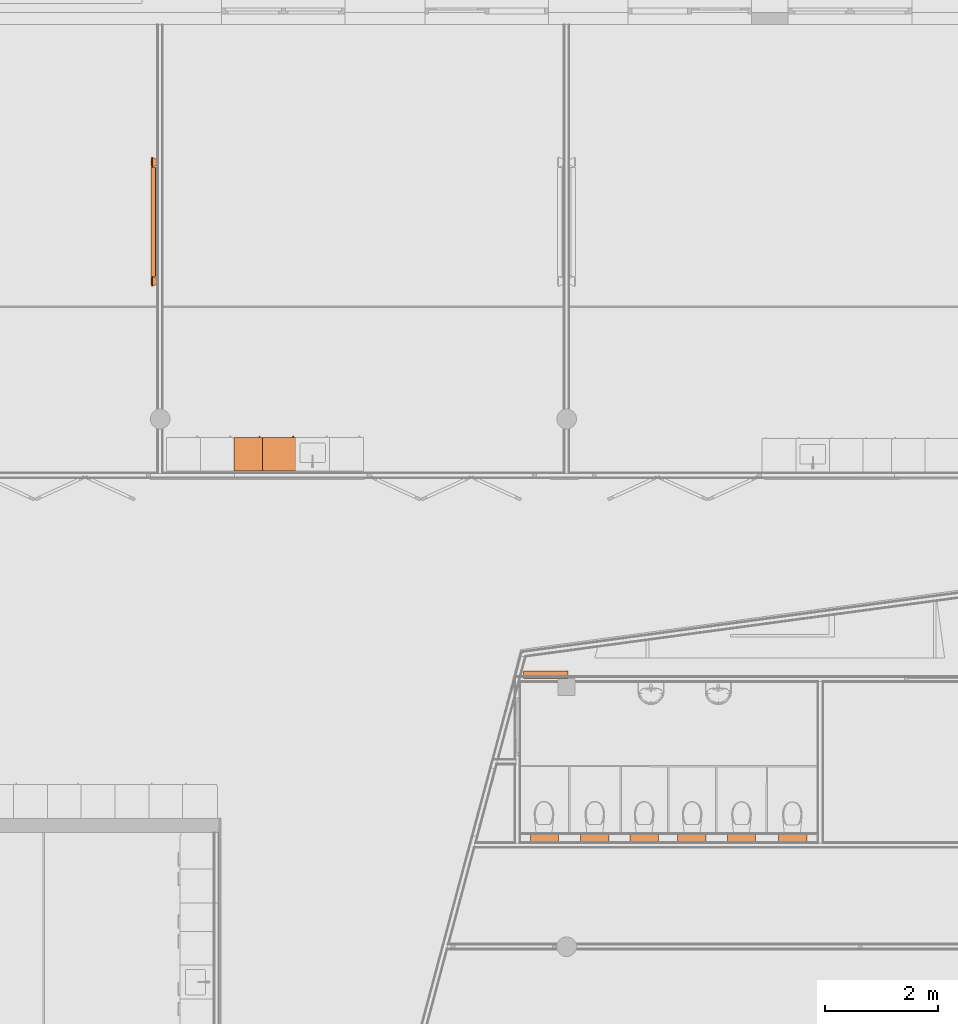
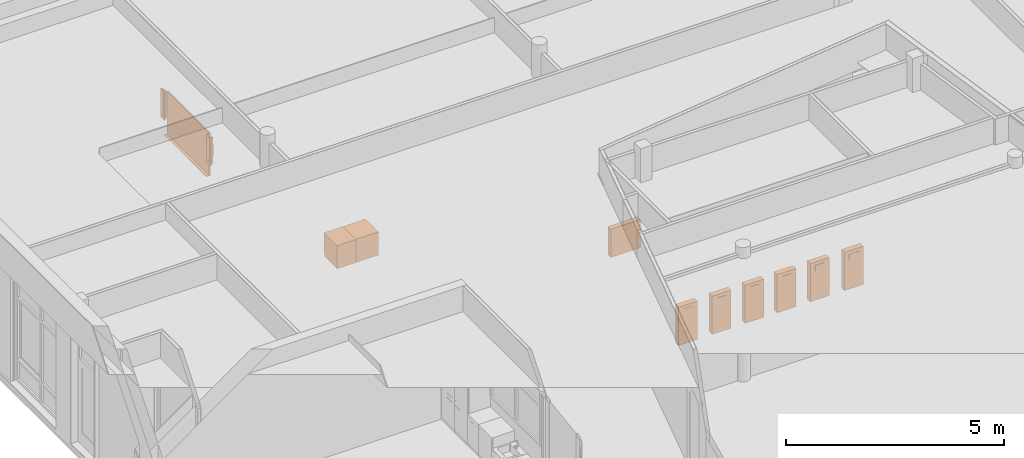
# One storey, part 103 of 167: 10 proxies.
"""IFC2X3 building model written with IfcOpenShell, lengths in millimetres."""

import ifcopenshell
import ifcopenshell.guid

model = None  # the IFC model being written
_history = None  # IfcOwnerHistory: only IFC2X3 demands one
_inside = {}  # id of a spatial element -> (the spatial element, [elements in it])
_under = {}  # id of a project, library or spatial element -> (it, [spatial elements below it])
_declared = {}  # id of a project -> (the project, [libraries it declares])
_typed = {}  # id of a type object -> (the type object, [elements of that type])
_made_of = {}  # id of a material, layer set ... -> (it, [elements and type objects made of it])


def new_model(schema):
    """Start an empty IFC model of exactly this schema.

    Asked for "IFC4X3", IfcOpenShell would pick the latest addendum, in which some entities
    have other attributes; the version numbers below select the first issue.
    IFC2X3 requires an IfcOwnerHistory on every rooted entity: one is made here for all.
    """
    global model, _history
    if schema == "IFC4X3":
        model = ifcopenshell.file(schema_version=(4, 3, 0, 0))
    else:
        model = ifcopenshell.file(schema=schema)
    _inside.clear()
    _under.clear()
    _declared.clear()
    _typed.clear()
    _made_of.clear()
    _history = None
    if model.schema == "IFC2X3":
        org = make("IfcOrganization", Name="unknown")
        user = make(
            "IfcPersonAndOrganization",
            ThePerson=make("IfcPerson", FamilyName="unknown"),
            TheOrganization=org,
        )
        app = make(
            "IfcApplication",
            ApplicationDeveloper=org,
            Version="unknown",
            ApplicationFullName="unknown",
            ApplicationIdentifier="unknown",
        )
        _history = make(
            "IfcOwnerHistory",
            OwningUser=user,
            OwningApplication=app,
            ChangeAction="ADDED",
            CreationDate=0,
        )
    return model


def make(cls, **values):
    """One entity of the class cls with the attributes given. An attribute that is None is left unset."""
    return model.create_entity(
        cls, **{name: value for name, value in values.items() if value is not None}
    )


def entity(cls, *values):
    """Any entity or typed value of the class cls, its attributes in the order of the schema. None: left unset."""
    e = model.create_entity(cls)
    for i, value in enumerate(values):
        if value is not None:
            e[i] = value
    return e


def rooted(cls, **values):
    """An entity with a GlobalId (a new one), such as an element, a storey or a relation."""
    return make(cls, GlobalId=ifcopenshell.guid.new(), OwnerHistory=_history, **values)


def si_unit(unit_type, name, prefix=None):
    """IfcSIUnit, for example si_unit("LENGTHUNIT", "METRE", prefix="MILLI")."""
    return make("IfcSIUnit", UnitType=unit_type, Prefix=prefix, Name=name)


def converted_unit(unit_type, name, factor, base, dimensions=None, offset=None):
    """IfcConversionBasedUnit, such as the inch: factor (a typed value) times the base unit."""
    return make(
        "IfcConversionBasedUnit"
        if offset is None
        else "IfcConversionBasedUnitWithOffset",
        ConversionOffset=offset,
        Dimensions=None
        if dimensions is None
        else entity("IfcDimensionalExponents", *dimensions),
        UnitType=unit_type,
        Name=name,
        ConversionFactor=make(
            "IfcMeasureWithUnit", ValueComponent=factor, UnitComponent=base
        ),
    )


def derived_unit(unit_type, elements):
    """IfcDerivedUnit: a product of units, each with its exponent."""
    return make(
        "IfcDerivedUnit",
        Elements=[
            make("IfcDerivedUnitElement", Unit=unit, Exponent=power)
            for unit, power in elements
        ],
        UnitType=unit_type,
    )


def money_unit(currency):
    """IfcMonetaryUnit."""
    return make("IfcMonetaryUnit", Currency=currency)


def assignment(units):
    """IfcUnitAssignment: the units of a project."""
    return None if units is None else make("IfcUnitAssignment", Units=units)


def point(xyz):
    """IfcCartesianPoint."""
    return None if xyz is None else make("IfcCartesianPoint", Coordinates=xyz)


def direction(xyz):
    """IfcDirection."""
    return None if xyz is None else make("IfcDirection", DirectionRatios=xyz)


def frame(location, z_axis=None, x_axis=None):
    """IfcAxis2Placement3D, a coordinate frame: its origin and axes. An axis left out is left unset."""
    return make(
        "IfcAxis2Placement3D",
        Location=point(location),
        Axis=direction(z_axis),
        RefDirection=direction(x_axis),
    )


def origin_with_axes():
    """The frame at (0, 0, 0) with the z axis (0, 0, 1) and the x axis (1, 0, 0) written out."""
    return frame((0.0, 0.0, 0.0), z_axis=(0.0, 0.0, 1.0), x_axis=(1.0, 0.0, 0.0))


def place(relative_to, where):
    """IfcLocalPlacement: puts the frame where relative to a parent placement (None: the world)."""
    return make(
        "IfcLocalPlacement", PlacementRelTo=relative_to, RelativePlacement=where
    )


def context(
    kind, dimensions, precision=None, world=None, true_north=None, identifier=None
):
    """IfcGeometricRepresentationContext, for example the 3D "Model" context."""
    return make(
        "IfcGeometricRepresentationContext",
        ContextIdentifier=identifier,
        ContextType=kind,
        CoordinateSpaceDimension=dimensions,
        Precision=precision,
        WorldCoordinateSystem=world,
        TrueNorth=true_north,
    )


def subcontext(parent, identifier, kind, view, scale=None):
    """IfcGeometricRepresentationSubContext, for example "Body" below "Model"."""
    return make(
        "IfcGeometricRepresentationSubContext",
        ContextIdentifier=identifier,
        ContextType=kind,
        ParentContext=parent,
        TargetScale=scale,
        TargetView=view,
    )


def project(units=None, contexts=None):
    """IfcProject with its units and contexts."""
    return rooted(
        "IfcProject",
        Name="project",
        RepresentationContexts=contexts,
        UnitsInContext=assignment(units),
    )


def spatial(cls, under=None, at=None, **own):
    """A site, building, storey or space (cls), placed at a placement, below another one or the project."""
    s = rooted(cls, ObjectPlacement=at, **own)
    if under is not None:
        _under.setdefault(under.id(), (under, []))[1].append(s)
    return s


def faces_of(points, faces, orient=None, outer=None):
    """IfcFace entities. A face is a list of loops; a loop is a list of indices into points, from 0.

    orient and outer hold one flag for each loop. By default every Orientation is true, the
    first loop of a face is its IfcFaceOuterBound and the others are IfcFaceBound.
    """
    made = []
    for i, loops in enumerate(faces):
        bounds = []
        for j, loop in enumerate(loops):
            is_outer = j == 0 if outer is None else outer[i][j]
            bounds.append(
                make(
                    "IfcFaceOuterBound" if is_outer else "IfcFaceBound",
                    Bound=make("IfcPolyLoop", Polygon=[points[k] for k in loop]),
                    Orientation=True if orient is None else orient[i][j],
                )
            )
        made.append(make("IfcFace", Bounds=bounds))
    return made


def open_shell(faces, orient=None, outer=None):
    """The faces of one IfcOpenShell. surface_model builds it on its shared points."""
    return ("IfcOpenShell", faces, orient, outer)


def faceted_brep(points, faces, orient=None, outer=None, voids=None):
    """IfcFacetedBrep: a solid bounded by flat faces; with voids (closed shells), ...WithVoids."""
    shared = [point(p) for p in points]
    hull = make("IfcClosedShell", CfsFaces=faces_of(shared, faces, orient, outer))
    if voids is None:
        return make("IfcFacetedBrep", Outer=hull)
    return make(
        "IfcFacetedBrepWithVoids",
        Outer=hull,
        Voids=[
            make(cls, CfsFaces=faces_of(shared, fs, o, b)) for cls, fs, o, b in voids
        ],
    )


def surface_model(cls, points, shells):
    """IfcFaceBasedSurfaceModel or IfcShellBasedSurfaceModel (cls): surfaces that need not close."""
    shared = [point(p) for p in points]
    made = [make(c, CfsFaces=faces_of(shared, fs, o, b)) for c, fs, o, b in shells]
    if cls == "IfcFaceBasedSurfaceModel":
        return make(cls, FbsmFaces=made)
    return make(cls, SbsmBoundary=made)


def shape(context_of_items, identifier, shape_type, items):
    """IfcShapeRepresentation: the items that make up one representation, for example the "Body"."""
    return make(
        "IfcShapeRepresentation",
        ContextOfItems=context_of_items,
        RepresentationIdentifier=identifier,
        RepresentationType=shape_type,
        Items=items,
    )


def source(mapping_origin, context_of_items, identifier, shape_type, items):
    """IfcRepresentationMap: a shape defined once, which mapped items show again and again."""
    return make(
        "IfcRepresentationMap",
        MappingOrigin=mapping_origin,
        MappedRepresentation=shape(context_of_items, identifier, shape_type, items),
    )


def transform(
    local_origin,
    x_axis=None,
    y_axis=None,
    z_axis=None,
    scale=None,
    scale2=None,
    scale3=None,
    uniform=True,
):
    """IfcCartesianTransformationOperator3D, or its non-uniform kind. x_axis, y_axis, z_axis: its Axis1, 2, 3."""
    if uniform:
        return make(
            "IfcCartesianTransformationOperator3D",
            Axis1=direction(x_axis),
            Axis2=direction(y_axis),
            LocalOrigin=point(local_origin),
            Scale=scale,
            Axis3=direction(z_axis),
        )
    return make(
        "IfcCartesianTransformationOperator3DnonUniform",
        Axis1=direction(x_axis),
        Axis2=direction(y_axis),
        LocalOrigin=point(local_origin),
        Scale=scale,
        Axis3=direction(z_axis),
        Scale2=scale2,
        Scale3=scale3,
    )


def mapped(mapping_source, mapping_target):
    """IfcMappedItem: shows the shape of a source again, moved by a transform."""
    return make(
        "IfcMappedItem", MappingSource=mapping_source, MappingTarget=mapping_target
    )


def made_of(thing, what):
    """Note that an element or type object is made of a material, layer set ...; save() writes the relation."""
    if what is not None:
        _made_of.setdefault(what.id(), (what, []))[1].append(thing)
    return thing


def type_object(cls, material=None, **own):
    """A type object (cls), such as IfcWallType, which elements share."""
    return made_of(rooted(cls, **own), material)


def type_shapes(of_type, sources):
    """Give a type object the sources (RepresentationMaps) that its elements show as mapped items."""
    of_type.RepresentationMaps = sources


def element(
    cls,
    number,
    at=None,
    inside=None,
    cuts=None,
    type_object=None,
    material=None,
    context=None,
    identifier="Body",
    shape_type=None,
    held_by="IfcProductDefinitionShape",
    body=None,
    shapes=None,
    **own,
):
    """One element of the class cls, such as IfcWall. Its Tag is "e" and its number.

    at: its placement. inside: the storey or other place that contains it. cuts: it is an
    opening in that element (IfcRelVoidsElement). A single representation is given by context,
    identifier, shape_type and body (its items); several are given by shapes. held_by: the class
    of the entity that holds the representations. save() writes the other relations.
    """
    e = rooted(cls, Tag="e%d" % number, ObjectPlacement=at, **own)
    if body is not None:
        shapes = [shape(context, identifier, shape_type, body)]
    if shapes is not None:
        e.Representation = make(held_by, Representations=shapes)
    if inside is not None:
        _inside.setdefault(inside.id(), (inside, []))[1].append(e)
    if cuts is not None:
        rooted(
            "IfcRelVoidsElement", RelatingBuildingElement=cuts, RelatedOpeningElement=e
        )
    if type_object is not None:
        _typed.setdefault(type_object.id(), (type_object, []))[1].append(e)
    return made_of(e, material)


def aggregate(whole, parts):
    """IfcRelAggregates: a whole, such as a stair, and the parts it consists of."""
    return rooted("IfcRelAggregates", RelatingObject=whole, RelatedObjects=parts)


def save(model, path):
    """Write the relations noted so far, then the file.

    IfcRelAggregates (storeys below a building ...), IfcRelContainedInSpatialStructure (elements
    in a storey), IfcRelDefinesByType, IfcRelAssociatesMaterial and IfcRelDeclares: one each for
    every whole, place, type object, material and project.
    """
    for whole, parts in _under.values():
        aggregate(whole, parts)
    for where, things in _inside.values():
        rooted(
            "IfcRelContainedInSpatialStructure",
            RelatedElements=things,
            RelatingStructure=where,
        )
    for kind, things in _typed.values():
        rooted("IfcRelDefinesByType", RelatedObjects=things, RelatingType=kind)
    for what, things in _made_of.values():
        rooted("IfcRelAssociatesMaterial", RelatedObjects=things, RelatingMaterial=what)
    for by, libraries in _declared.values():
        rooted("IfcRelDeclares", RelatingContext=by, RelatedDefinitions=libraries)
    model.write(path)


model = new_model("IFC2X3")

# Units and contexts
model_context = context("Model", 3, precision=0.01, world=origin_with_axes(), true_north=direction((0.0, 1.0)))
plan_context = context("Plan", 3, precision=0.01, world=origin_with_axes(), true_north=direction((0.0, 1.0)))
body_context = subcontext(model_context, "Body", "Model", "MODEL_VIEW")
ifc_project = project(units=[si_unit("LENGTHUNIT", "METRE", prefix="MILLI"), si_unit("AREAUNIT", "SQUARE_METRE"), si_unit("VOLUMEUNIT", "CUBIC_METRE"), converted_unit("PLANEANGLEUNIT", "DEGREE", entity("IfcPlaneAngleMeasure", 0.0174532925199), si_unit("PLANEANGLEUNIT", "RADIAN"), dimensions=[0, 0, 0, 0, 0, 0, 0]), si_unit("SOLIDANGLEUNIT", "STERADIAN"), money_unit("EUR"), converted_unit("TIMEUNIT", "Year", entity("IfcTimeMeasure", 31556926.0), si_unit("TIMEUNIT", "SECOND"), dimensions=[0, 0, 1, 0, 0, 0, 0]), si_unit("MASSUNIT", "GRAM", prefix="KILO"), si_unit("THERMODYNAMICTEMPERATUREUNIT", "DEGREE_CELSIUS"), si_unit("LUMINOUSINTENSITYUNIT", "LUMEN"), si_unit("ENERGYUNIT", "JOULE", prefix="MEGA"), derived_unit("THERMALCONDUCTANCEUNIT", [(si_unit("POWERUNIT", "WATT"), 1), (si_unit("LENGTHUNIT", "METRE"), -1), (si_unit("THERMODYNAMICTEMPERATUREUNIT", "KELVIN"), -1)]), derived_unit("SPECIFICHEATCAPACITYUNIT", [(si_unit("ENERGYUNIT", "JOULE"), 1), (si_unit("MASSUNIT", "GRAM", prefix="KILO"), -1), (si_unit("THERMODYNAMICTEMPERATUREUNIT", "KELVIN"), -1)]), derived_unit("MASSDENSITYUNIT", [(si_unit("MASSUNIT", "GRAM", prefix="KILO"), 1), (si_unit("VOLUMEUNIT", "CUBIC_METRE"), -1)])], contexts=[model_context, plan_context])

# Site, building, storey
site_placement = place(None, origin_with_axes())
site = spatial("IfcSite", under=ifc_project, at=site_placement, Name="Site", CompositionType="ELEMENT")
building_placement = place(site_placement, origin_with_axes())
building = spatial("IfcBuilding", under=site, at=building_placement, Name="Naam gebouw", CompositionType="ELEMENT")
storey_placement = place(building_placement, origin_with_axes())
storey = spatial("IfcBuildingStorey", under=building, at=storey_placement, Name="Begane grond", CompositionType="ELEMENT", Elevation=0.0)

# Proxies
building_element_proxy_type_1 = type_object("IfcBuildingElementProxyType", Name="Kast basis 1D 24", PredefinedType="NOTDEFINED")
shared_shape_1 = source(origin_with_axes(), body_context, "Body", "Brep", [
    faceted_brep([(0.0, 20.0, 0.0), (0.0, 20.0, 90.0), (-500.0, 20.0, 90.0), (-500.0, 20.0, 0.0), (0.0, 600.0, 0.0), (0.0, 600.0, 90.0), (-500.0, 600.0, 90.0), (-500.0, 600.0, 0.0)], [[[0, 1, 2, 3]], [[4, 5, 1, 0]], [[1, 5, 6, 2]], [[3, 2, 6, 7]], [[0, 3, 7, 4]], [[7, 6, 5, 4]]]),
    faceted_brep([(0.0, 20.0, 580.0), (0.0, 20.0, 600.0), (-20.0, 20.0, 600.0), (-20.0, 20.0, 580.0), (0.0, 600.0, 580.0), (0.0, 600.0, 600.0), (-20.0, 600.0, 600.0), (-480.0, 600.0, 600.0), (-500.0, 600.0, 600.0), (-500.0, 20.0, 600.0), (-480.0, 20.0, 600.0), (-480.0, 20.0, 580.0), (-500.0, 20.0, 580.0), (-500.0, 600.0, 580.0), (-480.0, 600.0, 580.0), (-20.0, 600.0, 580.0)], [[[0, 1, 2, 3]], [[4, 5, 1, 0]], [[1, 5, 6, 7, 8, 9, 10, 2]], [[3, 2, 10, 11]], [[0, 3, 11, 12, 13, 14, 15, 4]], [[15, 6, 5, 4]], [[14, 7, 6, 15]], [[13, 8, 7, 14]], [[12, 9, 8, 13]], [[11, 10, 9, 12]]]),
    faceted_brep([(0.0, 20.0, 90.0), (0.0, 20.0, 110.0), (-20.0, 20.0, 110.0), (-20.0, 20.0, 90.0), (0.0, 600.0, 90.0), (0.0, 600.0, 110.0), (-20.0, 600.0, 110.0), (-480.0, 600.0, 110.0), (-500.0, 600.0, 110.0), (-500.0, 20.0, 110.0), (-480.0, 20.0, 110.0), (-480.0, 20.0, 90.0), (-500.0, 20.0, 90.0), (-500.0, 600.0, 90.0), (-480.0, 600.0, 90.0), (-20.0, 600.0, 90.0)], [[[0, 1, 2, 3]], [[4, 5, 1, 0]], [[1, 5, 6, 7, 8, 9, 10, 2]], [[3, 2, 10, 11]], [[0, 3, 11, 12, 13, 14, 15, 4]], [[15, 6, 5, 4]], [[14, 7, 6, 15]], [[13, 8, 7, 14]], [[12, 9, 8, 13]], [[11, 10, 9, 12]]]),
    faceted_brep([(0.0, 20.0, 110.0), (0.0, 20.0, 580.0), (-20.0, 20.0, 580.0), (-20.0, 20.0, 110.0), (0.0, 600.0, 110.0), (0.0, 600.0, 580.0), (-500.0, 600.0, 580.0), (-500.0, 20.0, 580.0), (-480.0, 20.0, 580.0), (-480.0, 580.0, 580.0), (-20.0, 580.0, 580.0), (-20.0, 580.0, 110.0), (-480.0, 580.0, 110.0), (-480.0, 20.0, 110.0), (-500.0, 20.0, 110.0), (-500.0, 600.0, 110.0)], [[[0, 1, 2, 3]], [[4, 5, 1, 0]], [[1, 5, 6, 7, 8, 9, 10, 2]], [[3, 2, 10, 11]], [[0, 3, 11, 12, 13, 14, 15, 4]], [[15, 6, 5, 4]], [[14, 7, 6, 15]], [[13, 8, 7, 14]], [[12, 9, 8, 13]], [[11, 10, 9, 12]]]),
    faceted_brep([(-480.0, 20.0, 325.0), (-480.0, 20.0, 345.0), (-480.0, 580.0, 345.0), (-480.0, 580.0, 325.0), (-20.0, 20.0, 325.0), (-20.0, 20.0, 345.0), (-20.0, 580.0, 345.0), (-20.0, 580.0, 325.0)], [[[0, 1, 2, 3]], [[4, 5, 1, 0]], [[1, 5, 6, 2]], [[3, 2, 6, 7]], [[0, 3, 7, 4]], [[7, 6, 5, 4]]]),
    faceted_brep([(0.0, 0.0, 600.0), (0.0, 0.0, 650.0), (-500.0, 0.0, 650.0), (-500.0, 0.0, 600.0), (0.0, 600.0, 600.0), (0.0, 600.0, 650.0), (-500.0, 600.0, 650.0), (-500.0, 600.0, 600.0)], [[[0, 1, 2, 3]], [[4, 5, 1, 0]], [[1, 5, 6, 2]], [[3, 2, 6, 7]], [[0, 3, 7, 4]], [[7, 6, 5, 4]]]),
    faceted_brep([(-1.5, 20.0, 91.5), (-1.5, 0.0, 91.5), (-498.5, 0.0, 91.5), (-498.5, 20.0, 91.5), (-1.5, 20.0, 598.5), (-1.5, 0.0, 598.5), (-498.5, 0.0, 598.5), (-498.5, 20.0, 598.5)], [[[0, 1, 2, 3]], [[4, 5, 1, 0]], [[1, 5, 6, 2]], [[3, 2, 6, 7]], [[0, 3, 7, 4]], [[7, 6, 5, 4]]]),
    faceted_brep([(-459.58655439, 0.0, 636.907798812), (-460.5, 0.0, 641.5), (-459.58655439, 0.0, 646.092201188), (-456.985281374, 0.0, 649.985281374), (-453.092201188, 0.0, 652.58655439), (-448.5, 0.0, 653.5), (-443.907798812, 0.0, 652.58655439), (-440.014718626, 0.0, 649.985281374), (-437.41344561, 0.0, 646.092201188), (-436.5, 0.0, 641.5), (-437.41344561, 0.0, 636.907798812), (-440.014718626, 0.0, 633.014718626), (-443.907798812, 0.0, 630.41344561), (-448.5, 0.0, 629.5), (-453.092201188, 0.0, 630.41344561), (-456.985281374, 0.0, 633.014718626), (-459.58655439, -25.0, 636.907798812), (-460.5, -25.0, 641.5), (-459.58655439, -25.0, 646.092201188), (-456.985281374, -25.0, 649.985281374), (-453.092201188, -25.0, 652.58655439), (-448.5, -25.0, 653.5), (-443.907798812, -25.0, 652.58655439), (-440.014718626, -25.0, 649.985281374), (-437.41344561, -25.0, 646.092201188), (-436.5, -25.0, 641.5), (-437.41344561, -25.0, 636.907798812), (-440.014718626, -25.0, 633.014718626), (-443.907798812, -25.0, 630.41344561), (-448.5, -25.0, 629.5), (-453.092201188, -25.0, 630.41344561), (-456.985281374, -25.0, 633.014718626)], [[[0, 1, 2, 3, 4, 5, 6, 7, 8, 9, 10, 11, 12, 13, 14, 15]], [[0, 16, 17, 1]], [[1, 17, 18, 2]], [[2, 18, 19, 3]], [[3, 19, 20, 4]], [[4, 20, 21, 5]], [[5, 21, 22, 6]], [[6, 22, 23, 7]], [[7, 23, 24, 8]], [[8, 24, 25, 9]], [[9, 25, 26, 10]], [[10, 26, 27, 11]], [[11, 27, 28, 12]], [[12, 28, 29, 13]], [[13, 29, 30, 14]], [[14, 30, 31, 15]], [[15, 31, 16, 0]], [[16, 31, 30, 29, 28, 27, 26, 25, 24, 23, 22, 21, 20, 19, 18, 17]]]),
])
proxy_1_placement = place(storey_placement, frame((8510.43240534, 42875.0, 0.0), z_axis=(0.0, 0.0, 1.0), x_axis=(-1.0, 0.0, 0.0)))
element("IfcBuildingElementProxy", 1, at=proxy_1_placement, inside=storey, type_object=building_element_proxy_type_1, Name="__Object-x", context=body_context, shape_type="MappedRepresentation", body=[
    mapped(shared_shape_1, transform((0.0, 0.0, 0.0))),
])
shared_shape_2 = source(origin_with_axes(), body_context, "Body", "Brep", [
    faceted_brep([(0.0, 20.0, 0.0), (0.0, 20.0, 90.0), (-600.0, 20.0, 90.0), (-600.0, 20.0, 0.0), (0.0, 600.0, 0.0), (0.0, 600.0, 90.0), (-600.0, 600.0, 90.0), (-600.0, 600.0, 0.0)], [[[0, 1, 2, 3]], [[4, 5, 1, 0]], [[1, 5, 6, 2]], [[3, 2, 6, 7]], [[0, 3, 7, 4]], [[7, 6, 5, 4]]]),
    faceted_brep([(0.0, 20.0, 580.0), (0.0, 20.0, 600.0), (-20.0, 20.0, 600.0), (-20.0, 20.0, 580.0), (0.0, 600.0, 580.0), (0.0, 600.0, 600.0), (-20.0, 600.0, 600.0), (-580.0, 600.0, 600.0), (-600.0, 600.0, 600.0), (-600.0, 20.0, 600.0), (-580.0, 20.0, 600.0), (-580.0, 20.0, 580.0), (-600.0, 20.0, 580.0), (-600.0, 600.0, 580.0), (-580.0, 600.0, 580.0), (-20.0, 600.0, 580.0)], [[[0, 1, 2, 3]], [[4, 5, 1, 0]], [[1, 5, 6, 7, 8, 9, 10, 2]], [[3, 2, 10, 11]], [[0, 3, 11, 12, 13, 14, 15, 4]], [[15, 6, 5, 4]], [[14, 7, 6, 15]], [[13, 8, 7, 14]], [[12, 9, 8, 13]], [[11, 10, 9, 12]]]),
    faceted_brep([(0.0, 20.0, 90.0), (0.0, 20.0, 110.0), (-20.0, 20.0, 110.0), (-20.0, 20.0, 90.0), (0.0, 600.0, 90.0), (0.0, 600.0, 110.0), (-20.0, 600.0, 110.0), (-580.0, 600.0, 110.0), (-600.0, 600.0, 110.0), (-600.0, 20.0, 110.0), (-580.0, 20.0, 110.0), (-580.0, 20.0, 90.0), (-600.0, 20.0, 90.0), (-600.0, 600.0, 90.0), (-580.0, 600.0, 90.0), (-20.0, 600.0, 90.0)], [[[0, 1, 2, 3]], [[4, 5, 1, 0]], [[1, 5, 6, 7, 8, 9, 10, 2]], [[3, 2, 10, 11]], [[0, 3, 11, 12, 13, 14, 15, 4]], [[15, 6, 5, 4]], [[14, 7, 6, 15]], [[13, 8, 7, 14]], [[12, 9, 8, 13]], [[11, 10, 9, 12]]]),
    faceted_brep([(0.0, 20.0, 110.0), (0.0, 20.0, 580.0), (-20.0, 20.0, 580.0), (-20.0, 20.0, 110.0), (0.0, 600.0, 110.0), (0.0, 600.0, 580.0), (-600.0, 600.0, 580.0), (-600.0, 20.0, 580.0), (-580.0, 20.0, 580.0), (-580.0, 580.0, 580.0), (-20.0, 580.0, 580.0), (-20.0, 580.0, 110.0), (-580.0, 580.0, 110.0), (-580.0, 20.0, 110.0), (-600.0, 20.0, 110.0), (-600.0, 600.0, 110.0)], [[[0, 1, 2, 3]], [[4, 5, 1, 0]], [[1, 5, 6, 7, 8, 9, 10, 2]], [[3, 2, 10, 11]], [[0, 3, 11, 12, 13, 14, 15, 4]], [[15, 6, 5, 4]], [[14, 7, 6, 15]], [[13, 8, 7, 14]], [[12, 9, 8, 13]], [[11, 10, 9, 12]]]),
    faceted_brep([(-580.0, 20.0, 325.0), (-580.0, 20.0, 345.0), (-580.0, 580.0, 345.0), (-580.0, 580.0, 325.0), (-20.0, 20.0, 325.0), (-20.0, 20.0, 345.0), (-20.0, 580.0, 345.0), (-20.0, 580.0, 325.0)], [[[0, 1, 2, 3]], [[4, 5, 1, 0]], [[1, 5, 6, 2]], [[3, 2, 6, 7]], [[0, 3, 7, 4]], [[7, 6, 5, 4]]]),
    faceted_brep([(0.0, 0.0, 600.0), (0.0, 0.0, 650.0), (-600.0, 0.0, 650.0), (-600.0, 0.0, 600.0), (0.0, 600.0, 600.0), (0.0, 600.0, 650.0), (-600.0, 600.0, 650.0), (-600.0, 600.0, 600.0)], [[[0, 1, 2, 3]], [[4, 5, 1, 0]], [[1, 5, 6, 2]], [[3, 2, 6, 7]], [[0, 3, 7, 4]], [[7, 6, 5, 4]]]),
    faceted_brep([(-1.5, 20.0, 91.5), (-1.5, 0.0, 91.5), (-598.5, 0.0, 91.5), (-598.5, 20.0, 91.5), (-1.5, 20.0, 598.5), (-1.5, 0.0, 598.5), (-598.5, 0.0, 598.5), (-598.5, 20.0, 598.5)], [[[0, 1, 2, 3]], [[4, 5, 1, 0]], [[1, 5, 6, 2]], [[3, 2, 6, 7]], [[0, 3, 7, 4]], [[7, 6, 5, 4]]]),
    faceted_brep([(-559.58655439, 0.0, 636.907798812), (-560.5, 0.0, 641.5), (-559.58655439, 0.0, 646.092201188), (-556.985281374, 0.0, 649.985281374), (-553.092201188, 0.0, 652.58655439), (-548.5, 0.0, 653.5), (-543.907798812, 0.0, 652.58655439), (-540.014718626, 0.0, 649.985281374), (-537.41344561, 0.0, 646.092201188), (-536.5, 0.0, 641.5), (-537.41344561, 0.0, 636.907798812), (-540.014718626, 0.0, 633.014718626), (-543.907798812, 0.0, 630.41344561), (-548.5, 0.0, 629.5), (-553.092201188, 0.0, 630.41344561), (-556.985281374, 0.0, 633.014718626), (-559.58655439, -25.0, 636.907798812), (-560.5, -25.0, 641.5), (-559.58655439, -25.0, 646.092201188), (-556.985281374, -25.0, 649.985281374), (-553.092201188, -25.0, 652.58655439), (-548.5, -25.0, 653.5), (-543.907798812, -25.0, 652.58655439), (-540.014718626, -25.0, 649.985281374), (-537.41344561, -25.0, 646.092201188), (-536.5, -25.0, 641.5), (-537.41344561, -25.0, 636.907798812), (-540.014718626, -25.0, 633.014718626), (-543.907798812, -25.0, 630.41344561), (-548.5, -25.0, 629.5), (-553.092201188, -25.0, 630.41344561), (-556.985281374, -25.0, 633.014718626)], [[[0, 1, 2, 3, 4, 5, 6, 7, 8, 9, 10, 11, 12, 13, 14, 15]], [[0, 16, 17, 1]], [[1, 17, 18, 2]], [[2, 18, 19, 3]], [[3, 19, 20, 4]], [[4, 20, 21, 5]], [[5, 21, 22, 6]], [[6, 22, 23, 7]], [[7, 23, 24, 8]], [[8, 24, 25, 9]], [[9, 25, 26, 10]], [[10, 26, 27, 11]], [[11, 27, 28, 12]], [[12, 28, 29, 13]], [[13, 29, 30, 14]], [[14, 30, 31, 15]], [[15, 31, 16, 0]], [[16, 31, 30, 29, 28, 27, 26, 25, 24, 23, 22, 21, 20, 19, 18, 17]]]),
])
type_shapes(building_element_proxy_type_1, [shared_shape_1, shared_shape_2])
proxy_2_placement = place(storey_placement, frame((9010.43240534, 42875.0, 0.0), z_axis=(0.0, 0.0, 1.0), x_axis=(-1.0, 0.0, 0.0)))
element("IfcBuildingElementProxy", 2, at=proxy_2_placement, inside=storey, type_object=building_element_proxy_type_1, Name="__Object-x", context=body_context, shape_type="MappedRepresentation", body=[
    mapped(shared_shape_2, transform((0.0, 0.0, 0.0))),
])
building_element_proxy_type_2 = type_object("IfcBuildingElementProxyType", Name="Brandslanghaspelkast 24 KM", PredefinedType="NOTDEFINED")
shared_shape_3 = source(origin_with_axes(), body_context, "Body", "Brep", [
    faceted_brep([(0.0, 0.0, 790.0), (-790.0, 0.0, 790.0), (-790.0, 0.0, 0.0), (0.0, 0.0, 0.0), (-10.0, 0.0, 10.0), (-780.0, 0.0, 10.0), (-780.0, 0.0, 780.0), (-10.0, 0.0, 780.0), (0.0, 135.0, 790.0), (-790.0, 135.0, 790.0), (-790.0, 135.0, 0.0), (0.0, 135.0, 0.0), (-10.0, 125.0, 10.0), (-780.0, 125.0, 10.0), (-780.0, 125.0, 780.0), (-10.0, 125.0, 780.0)], [[[0, 1, 2, 3], [4, 5, 6, 7]], [[8, 9, 1, 0]], [[1, 9, 10, 2]], [[10, 11, 3, 2]], [[8, 0, 3, 11]], [[4, 12, 13, 5]], [[5, 13, 14, 6]], [[6, 14, 15, 7]], [[7, 15, 12, 4]], [[9, 8, 11, 10]], [[13, 12, 15, 14]]]),
    faceted_brep([(-780.1, 0.0, 10.1), (-780.1, 10.0, 10.1), (-10.1, 10.0, 10.1), (-10.1, 0.0, 10.1), (-780.1, 0.0, 779.9), (-780.1, 10.0, 779.9), (-10.1, 10.0, 779.9), (-10.1, 0.0, 779.9)], [[[0, 1, 2, 3]], [[0, 4, 5, 1]], [[1, 5, 6, 2]], [[2, 6, 7, 3]], [[3, 7, 4, 0]], [[7, 6, 5, 4]]]),
])
type_shapes(building_element_proxy_type_2, [shared_shape_3])
proxy_3_placement = place(storey_placement, frame((13637.8275414, 38735.0116284, 750.0), z_axis=(0.0, 0.0, 1.0), x_axis=(-1.0, 0.0, 0.0)))
element("IfcBuildingElementProxy", 3, at=proxy_3_placement, inside=storey, type_object=building_element_proxy_type_2, Name="__Object-x", context=body_context, shape_type="MappedRepresentation", body=[
    mapped(shared_shape_3, transform((0.0, 0.0, 0.0))),
])
building_element_proxy_type_3 = type_object("IfcBuildingElementProxyType", Name="Inbouwreservoir 24 KM", PredefinedType="NOTDEFINED")
shared_shape_4 = source(origin_with_axes(), body_context, "Body", "SurfaceModel", [
    faceted_brep([(0.0, 0.0, 0.0), (501.499856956, 0.0, 0.0), (501.499856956, 0.0, 1070.0), (0.0, 0.0, 1070.0), (0.0, 145.000476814, 0.0), (501.499856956, 145.000476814, 0.0), (501.499856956, 145.000476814, 1070.0), (0.0, 145.000476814, 1070.0)], [[[0, 1, 2, 3]], [[0, 4, 5, 1]], [[1, 5, 6, 2]], [[3, 2, 6, 7]], [[4, 0, 3, 7]], [[5, 4, 7, 6]]]),
    surface_model("IfcShellBasedSurfaceModel", [(1.0, 0.0, 0.0), (500.499856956, 0.0, 0.0), (500.499856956, 145.000476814, 1070.0), (1.0, 145.000476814, 1070.0)], [open_shell([[[0, 1, 2, 3]]])]),
    surface_model("IfcShellBasedSurfaceModel", [(1.0, 0.0, 1070.0), (500.499856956, 0.0, 1070.0), (500.499856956, 145.000476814, 0.0), (1.0, 145.000476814, 0.0)], [open_shell([[[0, 1, 2, 3]]])]),
    faceted_brep([(375.749928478, -10.0, 820.0), (125.749928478, -10.0, 820.0), (125.749928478, 0.0, 820.0), (375.749928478, 0.0, 820.0), (375.749928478, -10.0, 980.0), (125.749928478, -10.0, 980.0), (125.749928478, 0.0, 980.0), (375.749928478, 0.0, 980.0)], [[[0, 1, 2, 3]], [[1, 0, 4, 5]], [[2, 1, 5, 6]], [[3, 2, 6, 7]], [[0, 3, 7, 4]], [[5, 4, 7, 6]]]),
    surface_model("IfcShellBasedSurfaceModel", [(325.749928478, 0.0, 850.0), (175.749928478, 0.0, 850.0), (175.749928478, 0.0, 950.0), (325.749928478, 0.0, 950.0)], [open_shell([[[0, 1, 2, 3]]])]),
    surface_model("IfcShellBasedSurfaceModel", [(175.749928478, -10.0, 820.0), (325.749928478, -10.0, 820.0), (325.749928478, -10.0, 855.0), (175.749928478, -10.0, 855.0)], [open_shell([[[0, 1, 2, 3]]])]),
    surface_model("IfcShellBasedSurfaceModel", [(175.749928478, -10.0, 855.0), (265.749928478, -10.0, 855.0), (265.749928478, -10.0, 945.0), (175.749928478, -10.0, 945.0)], [open_shell([[[0, 1, 2, 3]]])]),
    surface_model("IfcShellBasedSurfaceModel", [(265.749928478, -10.0, 855.0), (325.749928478, -10.0, 855.0), (325.749928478, -10.0, 945.0), (265.749928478, -10.0, 945.0)], [open_shell([[[0, 1, 2, 3]]])]),
])
type_shapes(building_element_proxy_type_3, [shared_shape_4])
for number, where, z_axis, x_axis in (
    (4, (13757.3849101, 35701.8531838, 0.0), (0.0, 0.0, 1.0), (0.999999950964, -0.000313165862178, 0.0)),
    (5, (14649.0648812, 35701.8531838, 0.0), (0.0, 0.0, 1.0), (0.999999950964, -0.000313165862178, 0.0)),
    (6, (15521.2452891, 35701.8531838, 0.0), (0.0, 0.0, 1.0), (0.999999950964, -0.000313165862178, 0.0)),
    (7, (16367.8639489, 35701.8531838, 0.0), (0.0, 0.0, 1.0), (0.999999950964, -0.000313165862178, 0.0)),
    (8, (17247.6553727, 35701.8531838, 0.0), (0.0, 0.0, 1.0), (0.999999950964, -0.000313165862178, 0.0)),
    (9, (18152.3504733, 35701.8531838, 0.0), (0.0, 0.0, 1.0), (0.999999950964, -0.000313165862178, 0.0)),
):
    element("IfcBuildingElementProxy", number, at=place(storey_placement, frame(where, z_axis=z_axis, x_axis=x_axis)), inside=storey, type_object=building_element_proxy_type_3, Name="__Object-x", context=body_context, shape_type="MappedRepresentation", body=[
        mapped(shared_shape_4, transform((0.0, 0.0, 0.0))),
    ])
building_element_proxy_type_4 = type_object("IfcBuildingElementProxyType", Name="Digitaal bord 24", PredefinedType="NOTDEFINED")
shared_shape_5 = source(origin_with_axes(), body_context, "Body", "Brep", [
    faceted_brep([(0.0, 0.0, 1000.0), (0.0, -30.0, 1000.0), (-1930.0, -30.0, 1000.0), (-1930.0, 0.0, 1000.0), (0.0, 0.0, 2185.0), (0.0, -30.0, 2185.0), (-4.3933982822, -30.0, 2195.60660172), (-15.0, -30.0, 2200.0), (-1915.0, -30.0, 2200.0), (-1925.60660172, -30.0, 2195.60660172), (-1930.0, -30.0, 2185.0), (-20.0, -30.0, 1025.0), (-1910.0, -30.0, 1025.0), (-1910.0, -30.0, 2180.0), (-20.0, -30.0, 2180.0), (-1930.0, 0.0, 2185.0), (-1925.60660172, 0.0, 2195.60660172), (-1915.0, 0.0, 2200.0), (-15.0, 0.0, 2200.0), (-4.3933982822, 0.0, 2195.60660172), (-20.0, 0.0, 1025.0), (-20.0, 0.0, 2180.0), (-1910.0, 0.0, 2180.0), (-1910.0, 0.0, 1025.0)], [[[0, 1, 2, 3]], [[4, 5, 1, 0]], [[1, 5, 6, 7, 8, 9, 10, 2], [11, 12, 13, 14]], [[3, 2, 10, 15]], [[0, 3, 15, 16, 17, 18, 19, 4], [20, 21, 22, 23]], [[19, 6, 5, 4]], [[18, 7, 6, 19]], [[17, 8, 7, 18]], [[16, 9, 8, 17]], [[15, 10, 9, 16]], [[23, 12, 11, 20]], [[22, 13, 12, 23]], [[21, 14, 13, 22]], [[20, 11, 14, 21]]]),
    faceted_brep([(-20.0, 0.0, 1025.0), (-20.0, -29.0, 1025.0), (-1910.0, -29.0, 1025.0), (-1910.0, 0.0, 1025.0), (-20.0, 0.0, 2180.0), (-20.0, -29.0, 2180.0), (-1910.0, -29.0, 2180.0), (-1910.0, 0.0, 2180.0)], [[[0, 1, 2, 3]], [[4, 5, 1, 0]], [[1, 5, 6, 2]], [[3, 2, 6, 7]], [[0, 3, 7, 4]], [[7, 6, 5, 4]]]),
    faceted_brep([(-1930.0, -110.0, 1000.0), (-1930.0, -30.0, 1000.0), (0.0, -30.0, 1000.0), (0.0, -110.0, 1000.0), (-1930.0, -110.0, 1005.0), (-1930.0, -30.0, 1005.0), (0.0, -30.0, 1005.0), (0.0, -110.0, 1005.0)], [[[0, 1, 2, 3]], [[0, 4, 5, 1]], [[1, 5, 6, 2]], [[2, 6, 7, 3]], [[3, 7, 4, 0]], [[7, 6, 5, 4]]]),
    faceted_brep([(0.0, -10.0, 1650.0), (0.0, 0.0, 1650.0), (140.0, 0.0, 1650.0), (140.0, -10.0, 1650.0), (0.0, -10.0, 1950.0), (0.0, 0.0, 1950.0), (140.0, 0.0, 1950.0), (140.0, -10.0, 1950.0)], [[[0, 1, 2, 3]], [[0, 4, 5, 1]], [[1, 5, 6, 2]], [[2, 6, 7, 3]], [[3, 7, 4, 0]], [[7, 6, 5, 4]]]),
    faceted_brep([(0.0, -100.0, 2200.0), (0.0, -100.0, 1400.0), (180.0, -100.0, 1400.0), (180.0, -100.0, 2200.0), (-2.43782993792e-07, -90.0, 2200.00000039), (-2.43782993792e-07, -90.0, 1399.99999964), (180.00000039, -90.0, 1399.99999964), (180.00000039, -90.0, 2200.00000039), (39.9999997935, -9.99999992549, 2160.00000035), (39.9999997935, -9.99999992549, 1439.99999968), (140.000000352, -9.99999992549, 1439.99999968), (140.000000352, -9.99999992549, 2160.00000035)], [[[0, 1, 2, 3]], [[0, 4, 5, 1]], [[1, 5, 6, 2]], [[2, 6, 7, 3]], [[3, 7, 4, 0]], [[4, 8, 9, 5]], [[5, 9, 10, 6]], [[6, 10, 11, 7]], [[7, 11, 8, 4]], [[10, 9, 8, 11]]]),
    faceted_brep([(157.071067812, -100.0, 1522.92893219), (150.0, -100.0, 1520.0), (30.0, -100.0, 1520.0), (22.9289321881, -100.0, 1522.92893219), (20.0, -100.0, 1530.0), (20.0, -100.0, 2170.0), (22.9289321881, -100.0, 2177.07106781), (30.0, -100.0, 2180.0), (150.0, -100.0, 2180.0), (157.071067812, -100.0, 2177.07106781), (160.0, -100.0, 2170.0), (160.0, -100.0, 1530.0), (156.488467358, -103.826834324, 1523.51153264), (149.848586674, -103.826834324, 1520.76120427), (30.1514125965, -103.826834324, 1520.76120427), (23.5115328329, -103.826834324, 1523.51153262), (20.761204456, -103.826834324, 1530.15141333), (20.761204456, -103.826834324, 2169.84858696), (23.5115328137, -103.826834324, 2176.48846674), (30.1514125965, -103.826834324, 2179.2387951), (149.848586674, -103.826834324, 2179.2387951), (156.488467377, -103.826834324, 2176.48846672), (159.238795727, -103.826834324, 2169.84858696), (159.238795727, -103.826834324, 1530.15141333), (152.346331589, -109.238795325, 1527.65366841), (148.772080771, -109.238795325, 1526.17316539), (31.2279186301, -109.238795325, 1526.17316539), (27.6536686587, -109.238795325, 1527.65366826), (26.1731655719, -109.238795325, 1531.22791923), (26.1731655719, -109.238795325, 2168.77208092), (27.6536685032, -109.238795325, 2172.34633105), (31.2279186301, -109.238795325, 2173.82683398), (148.772080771, -109.238795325, 2173.82683398), (152.346331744, -109.238795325, 2172.34633089), (153.826834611, -109.238795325, 2168.77208092), (153.826834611, -109.238795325, 1531.22791923), (149.41740042, -109.999999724, 1530.58259958), (148.010876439, -109.999999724, 1529.99999833), (31.9891230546, -109.999999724, 1529.99999833), (30.5825998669, -109.999999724, 1530.58259933), (29.9999985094, -109.999999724, 1531.98912356), (29.9999985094, -109.999999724, 2168.0108765), (30.5825996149, -109.999999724, 2169.41739994), (31.9891230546, -109.999999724, 2170.00000104), (148.010876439, -109.999999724, 2170.00000104), (149.417400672, -109.999999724, 2169.41739969), (150.000001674, -109.999999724, 2168.0108765), (150.000001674, -109.999999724, 1531.98912356)], [[[0, 1, 2, 3, 4, 5, 6, 7, 8, 9, 10, 11]], [[0, 12, 13, 1]], [[1, 13, 14, 2]], [[2, 14, 15, 3]], [[3, 15, 16, 4]], [[4, 16, 17, 5]], [[5, 17, 18, 6]], [[6, 18, 19, 7]], [[7, 19, 20, 8]], [[8, 20, 21, 9]], [[9, 21, 22, 10]], [[10, 22, 23, 11]], [[11, 23, 12, 0]], [[12, 24, 25, 13]], [[13, 25, 26, 14]], [[14, 26, 27, 15]], [[15, 27, 28, 16]], [[16, 28, 29, 17]], [[17, 29, 30, 18]], [[18, 30, 31, 19]], [[19, 31, 32, 20]], [[20, 32, 33, 21]], [[21, 33, 34, 22]], [[22, 34, 35, 23]], [[23, 35, 24, 12]], [[24, 36, 37, 25]], [[25, 37, 38, 26]], [[26, 38, 39, 27]], [[27, 39, 40, 28]], [[28, 40, 41, 29]], [[29, 41, 42, 30]], [[30, 42, 43, 31]], [[31, 43, 44, 32]], [[32, 44, 45, 33]], [[33, 45, 46, 34]], [[34, 46, 47, 35]], [[35, 47, 36, 24]], [[45, 44, 43, 42, 41, 40, 39, 38, 37, 36, 47, 46]]]),
    faceted_brep([(40.0, -100.0, 1400.0), (40.0, -100.0, 1450.0), (54.6446609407, -100.0, 1485.35533906), (90.0, -100.0, 1500.0), (125.355339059, -100.0, 1485.35533906), (140.0, -100.0, 1450.0), (140.0, -100.0, 1400.0), (40.380602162, -101.913417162, 1400.38060194), (40.380602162, -101.913417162, 1449.92429384), (54.9359612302, -101.913417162, 1485.06403877), (89.9999996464, -101.913417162, 1499.58803917), (125.064038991, -101.913417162, 1485.06403877), (139.619398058, -101.913417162, 1449.92429384), (139.619398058, -101.913417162, 1400.38060194), (43.0865822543, -104.619397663, 1403.08658203), (43.0865822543, -104.619397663, 1449.38604093), (57.0070287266, -104.619397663, 1482.99297127), (89.99999966, -104.619397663, 1496.65910743), (122.9929715, -104.619397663, 1482.99297126), (136.913417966, -104.619397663, 1449.38604093), (136.913417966, -104.619397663, 1403.08658203), (45.0000010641, -105.000000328, 1405.00000084), (45.0000010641, -105.000000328, 1449.00543826), (58.4714960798, -105.000000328, 1481.52850392), (89.9999996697, -105.000000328, 1494.58803784), (121.528504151, -105.000000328, 1481.52850389), (134.999999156, -105.000000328, 1449.00543826), (134.999999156, -105.000000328, 1405.00000084)], [[[0, 1, 2, 3, 4, 5, 6]], [[0, 7, 8, 1]], [[1, 8, 9, 2]], [[2, 9, 10, 3]], [[3, 10, 11, 4]], [[4, 11, 12, 5]], [[5, 12, 13, 6]], [[6, 13, 7, 0]], [[7, 14, 15, 8]], [[8, 15, 16, 9]], [[9, 16, 17, 10]], [[10, 17, 18, 11]], [[11, 18, 19, 12]], [[12, 19, 20, 13]], [[13, 20, 14, 7]], [[14, 21, 22, 15]], [[15, 22, 23, 16]], [[16, 23, 24, 17]], [[17, 24, 25, 18]], [[18, 25, 26, 19]], [[19, 26, 27, 20]], [[20, 27, 21, 14]], [[25, 24, 23, 22, 21, 27, 26]]]),
    faceted_brep([(-1930.0, -10.0, 1650.0), (-2070.0, -10.0, 1650.0), (-2070.0, 0.0, 1650.0), (-1930.0, 0.0, 1650.0), (-1930.0, -10.0, 1950.0), (-2070.0, -10.0, 1950.0), (-2070.0, 0.0, 1950.0), (-1930.0, 0.0, 1950.0)], [[[0, 1, 2, 3]], [[1, 0, 4, 5]], [[2, 1, 5, 6]], [[3, 2, 6, 7]], [[0, 3, 7, 4]], [[5, 4, 7, 6]]]),
    faceted_brep([(-1930.0, -100.0, 2200.0), (-2110.0, -100.0, 2200.0), (-2110.0, -100.0, 1400.0), (-1930.0, -100.0, 1400.0), (-1929.99999976, -90.0, 2200.00000039), (-2110.00000039, -90.0, 2200.00000039), (-2110.00000039, -90.0, 1399.99999964), (-1929.99999976, -90.0, 1399.99999964), (-1969.99999979, -9.99999992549, 2160.00000035), (-2070.00000035, -9.99999992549, 2160.00000035), (-2070.00000035, -9.99999992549, 1439.99999968), (-1969.99999979, -9.99999992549, 1439.99999968)], [[[0, 1, 2, 3]], [[1, 0, 4, 5]], [[2, 1, 5, 6]], [[3, 2, 6, 7]], [[0, 3, 7, 4]], [[5, 4, 8, 9]], [[6, 5, 9, 10]], [[7, 6, 10, 11]], [[4, 7, 11, 8]], [[10, 9, 8, 11]]]),
    faceted_brep([(-2087.07106781, -100.0, 1522.92893219), (-2090.0, -100.0, 1530.0), (-2090.0, -100.0, 2170.0), (-2087.07106781, -100.0, 2177.07106781), (-2080.0, -100.0, 2180.0), (-1960.0, -100.0, 2180.0), (-1952.92893219, -100.0, 2177.07106781), (-1950.0, -100.0, 2170.0), (-1950.0, -100.0, 1530.0), (-1952.92893219, -100.0, 1522.92893219), (-1960.0, -100.0, 1520.0), (-2080.0, -100.0, 1520.0), (-2086.48846736, -103.826834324, 1523.51153264), (-2089.23879573, -103.826834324, 1530.15141333), (-2089.23879573, -103.826834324, 2169.84858696), (-2086.48846738, -103.826834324, 2176.48846672), (-2079.84858667, -103.826834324, 2179.2387951), (-1960.1514126, -103.826834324, 2179.2387951), (-1953.51153281, -103.826834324, 2176.48846674), (-1950.76120446, -103.826834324, 2169.84858696), (-1950.76120446, -103.826834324, 1530.15141333), (-1953.51153283, -103.826834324, 1523.51153262), (-1960.1514126, -103.826834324, 1520.76120427), (-2079.84858667, -103.826834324, 1520.76120427), (-2082.34633159, -109.238795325, 1527.65366841), (-2083.82683461, -109.238795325, 1531.22791923), (-2083.82683461, -109.238795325, 2168.77208092), (-2082.34633174, -109.238795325, 2172.34633089), (-2078.77208077, -109.238795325, 2173.82683398), (-1961.22791863, -109.238795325, 2173.82683398), (-1957.6536685, -109.238795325, 2172.34633105), (-1956.17316557, -109.238795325, 2168.77208092), (-1956.17316557, -109.238795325, 1531.22791923), (-1957.65366866, -109.238795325, 1527.65366826), (-1961.22791863, -109.238795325, 1526.17316539), (-2078.77208077, -109.238795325, 1526.17316539), (-2079.41740042, -109.999999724, 1530.58259958), (-2080.00000167, -109.999999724, 1531.98912356), (-2080.00000167, -109.999999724, 2168.0108765), (-2079.41740067, -109.999999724, 2169.41739969), (-2078.01087644, -109.999999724, 2170.00000104), (-1961.98912305, -109.999999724, 2170.00000104), (-1960.58259961, -109.999999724, 2169.41739994), (-1959.99999851, -109.999999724, 2168.0108765), (-1959.99999851, -109.999999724, 1531.98912356), (-1960.58259987, -109.999999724, 1530.58259933), (-1961.98912305, -109.999999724, 1529.99999833), (-2078.01087644, -109.999999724, 1529.99999833)], [[[0, 1, 2, 3, 4, 5, 6, 7, 8, 9, 10, 11]], [[1, 0, 12, 13]], [[2, 1, 13, 14]], [[3, 2, 14, 15]], [[4, 3, 15, 16]], [[5, 4, 16, 17]], [[6, 5, 17, 18]], [[7, 6, 18, 19]], [[8, 7, 19, 20]], [[9, 8, 20, 21]], [[10, 9, 21, 22]], [[11, 10, 22, 23]], [[0, 11, 23, 12]], [[13, 12, 24, 25]], [[14, 13, 25, 26]], [[15, 14, 26, 27]], [[16, 15, 27, 28]], [[17, 16, 28, 29]], [[18, 17, 29, 30]], [[19, 18, 30, 31]], [[20, 19, 31, 32]], [[21, 20, 32, 33]], [[22, 21, 33, 34]], [[23, 22, 34, 35]], [[12, 23, 35, 24]], [[25, 24, 36, 37]], [[26, 25, 37, 38]], [[27, 26, 38, 39]], [[28, 27, 39, 40]], [[29, 28, 40, 41]], [[30, 29, 41, 42]], [[31, 30, 42, 43]], [[32, 31, 43, 44]], [[33, 32, 44, 45]], [[34, 33, 45, 46]], [[35, 34, 46, 47]], [[24, 35, 47, 36]], [[39, 38, 37, 36, 47, 46, 45, 44, 43, 42, 41, 40]]]),
    faceted_brep([(-1970.0, -100.0, 1400.0), (-2070.0, -100.0, 1400.0), (-2070.0, -100.0, 1450.0), (-2055.35533906, -100.0, 1485.35533906), (-2020.0, -100.0, 1500.0), (-1984.64466094, -100.0, 1485.35533906), (-1970.0, -100.0, 1450.0), (-1970.38060216, -101.913417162, 1400.38060194), (-2069.61939806, -101.913417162, 1400.38060194), (-2069.61939806, -101.913417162, 1449.92429384), (-2055.06403899, -101.913417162, 1485.06403877), (-2019.99999965, -101.913417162, 1499.58803917), (-1984.93596123, -101.913417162, 1485.06403877), (-1970.38060216, -101.913417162, 1449.92429384), (-1973.08658225, -104.619397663, 1403.08658203), (-2066.91341797, -104.619397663, 1403.08658203), (-2066.91341797, -104.619397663, 1449.38604093), (-2052.9929715, -104.619397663, 1482.99297126), (-2019.99999966, -104.619397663, 1496.65910743), (-1987.00702873, -104.619397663, 1482.99297127), (-1973.08658225, -104.619397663, 1449.38604093), (-1975.00000106, -105.000000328, 1405.00000084), (-2064.99999916, -105.000000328, 1405.00000084), (-2064.99999916, -105.000000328, 1449.00543826), (-2051.52850415, -105.000000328, 1481.52850389), (-2019.99999967, -105.000000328, 1494.58803784), (-1988.47149608, -105.000000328, 1481.52850392), (-1975.00000106, -105.000000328, 1449.00543826)], [[[0, 1, 2, 3, 4, 5, 6]], [[1, 0, 7, 8]], [[2, 1, 8, 9]], [[3, 2, 9, 10]], [[4, 3, 10, 11]], [[5, 4, 11, 12]], [[6, 5, 12, 13]], [[0, 6, 13, 7]], [[8, 7, 14, 15]], [[9, 8, 15, 16]], [[10, 9, 16, 17]], [[11, 10, 17, 18]], [[12, 11, 18, 19]], [[13, 12, 19, 20]], [[7, 13, 20, 14]], [[15, 14, 21, 22]], [[16, 15, 22, 23]], [[17, 16, 23, 24]], [[18, 17, 24, 25]], [[19, 18, 25, 26]], [[20, 19, 26, 27]], [[14, 20, 27, 21]], [[24, 23, 22, 21, 27, 26, 25]]]),
])
type_shapes(building_element_proxy_type_4, [shared_shape_5])
proxy_4_placement = place(storey_placement, frame((7150.0, 45728.0, 0.0), z_axis=(0.0, 0.0, 1.0), x_axis=(0.0, -1.0, 0.0)))
element("IfcBuildingElementProxy", 10, at=proxy_4_placement, inside=storey, type_object=building_element_proxy_type_4, Name="__object-x", context=body_context, shape_type="MappedRepresentation", body=[
    mapped(shared_shape_5, transform((0.0, 0.0, 0.0))),
])

save(model, "model.ifc")
